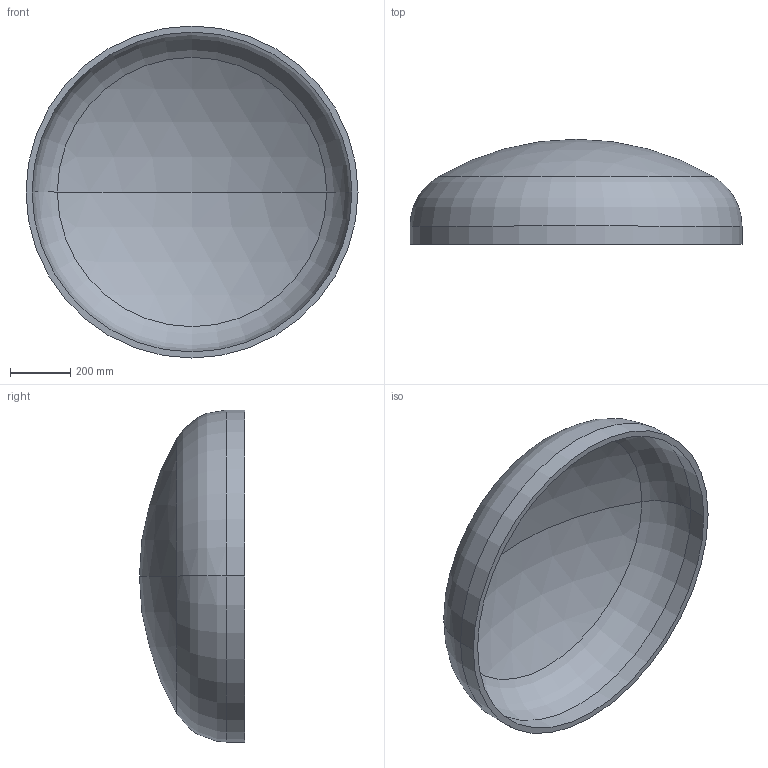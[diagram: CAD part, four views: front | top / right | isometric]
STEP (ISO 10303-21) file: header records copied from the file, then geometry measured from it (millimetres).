
FILE_DESCRIPTION (( 'STEP AP203' ), '1' );
FILE_NAME ('DIN 28013 Korbbogenform_-_Boden DIN 28013 - 1100 x 60 - I - s=20.step', '2016-07-01T09:03:04', ( '' ), ( '' ), 'SwSTEP 2.0', 'SolidWorks 2013', '' );
FILE_SCHEMA (( 'CONFIG_CONTROL_DESIGN' ));
Length unit declared in the file: millimetre
Products named in the file (1): DIN 28013 Korbbogenform_-_Boden DIN 28013 - 1100 x 60 - I - s=20
Bounding box: 1100 x 348.04 x 1100 mm (x, y, z)
Volume: 29790079 mm3; surface area: 3047703.1 mm2
Topology: 1 solids, 1 shells, 13 faces, 24 edges, 14 vertices
Faces by surface type: torus 4, cylinder 4, sphere 4, plane 1
Entity records: 407 total; most frequent: DIRECTION 72, CARTESIAN_POINT 52, ORIENTED_EDGE 48, AXIS2_PLACEMENT_3D 34, EDGE_CURVE 24, CIRCLE 20, VERTEX_POINT 14, EDGE_LOOP 14
